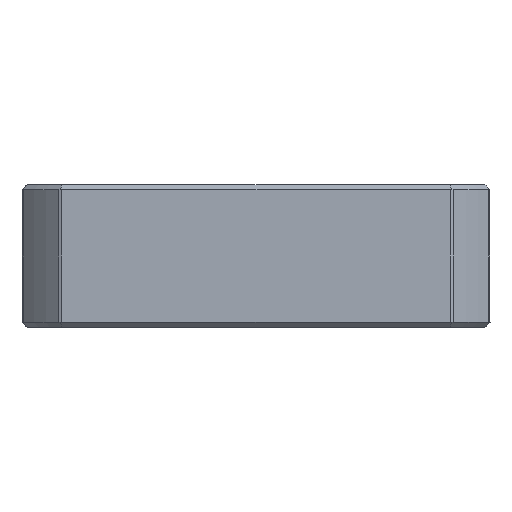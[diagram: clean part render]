
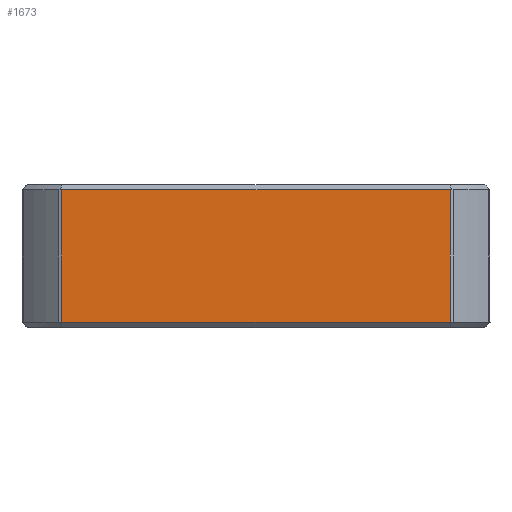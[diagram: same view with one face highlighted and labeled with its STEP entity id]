
A CAD part, left-side view. The second image highlights one B-rep face of the part: STEP entity #1673.
In plain terms, the highlighted planar face has unit normal (-1, 0, 0).
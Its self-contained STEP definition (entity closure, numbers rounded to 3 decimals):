
#1453 = VERTEX_POINT ( 'NONE', #6279 ) ;
#1498 = EDGE_CURVE ( 'NONE', #1515, #1499, #6350, .T. ) ;
#1499 = VERTEX_POINT ( 'NONE', #6342 ) ;
#1506 = EDGE_CURVE ( 'NONE', #1499, #1507, #6388, .T. ) ;
#1507 = VERTEX_POINT ( 'NONE', #6384 ) ;
#1514 = EDGE_CURVE ( 'NONE', #1453, #1515, #6378, .T. ) ;
#1515 = VERTEX_POINT ( 'NONE', #6368 ) ;
#1673 = ADVANCED_FACE ( 'NONE', ( #6638 ), #6637, .F. ) ;
#1674 = EDGE_LOOP ( 'NONE', ( #1675, #1676, #1678, #1732 ) ) ;
#1675 = ORIENTED_EDGE ( 'NONE', *, *, #1514, .F. ) ;
#1676 = ORIENTED_EDGE ( 'NONE', *, *, #1677, .T. ) ;
#1677 = EDGE_CURVE ( 'NONE', #1453, #1507, #6632, .T. ) ;
#1678 = ORIENTED_EDGE ( 'NONE', *, *, #1506, .F. ) ;
#1732 = ORIENTED_EDGE ( 'NONE', *, *, #1498, .F. ) ;
#6279 = CARTESIAN_POINT ( 'NONE',  ( -23., 19.079, 0.5 ) ) ;
#6342 = CARTESIAN_POINT ( 'NONE',  ( -23., -19.079, 13.5 ) ) ;
#6343 = DIRECTION ( 'NONE',  ( 0., -1., 0. ) ) ;
#6344 = VECTOR ( 'NONE', #6343, 1000. ) ;
#6345 = CARTESIAN_POINT ( 'NONE',  ( -23., 0., 13.5 ) ) ;
#6350 = LINE ( 'NONE', #6345, #6344 ) ;
#6368 = CARTESIAN_POINT ( 'NONE',  ( -23., 19.079, 13.5 ) ) ;
#6369 = DIRECTION ( 'NONE',  ( 0., 0., 1. ) ) ;
#6370 = VECTOR ( 'NONE', #6369, 1000. ) ;
#6371 = CARTESIAN_POINT ( 'NONE',  ( -23., 19.079, 7. ) ) ;
#6378 = LINE ( 'NONE', #6371, #6370 ) ;
#6384 = CARTESIAN_POINT ( 'NONE',  ( -23., -19.079, 0.5 ) ) ;
#6385 = DIRECTION ( 'NONE',  ( 0., 0., -1. ) ) ;
#6386 = VECTOR ( 'NONE', #6385, 1000. ) ;
#6387 = CARTESIAN_POINT ( 'NONE',  ( -23., -19.079, 7. ) ) ;
#6388 = LINE ( 'NONE', #6387, #6386 ) ;
#6629 = DIRECTION ( 'NONE',  ( 0., -1., 0. ) ) ;
#6630 = VECTOR ( 'NONE', #6629, 1000. ) ;
#6631 = CARTESIAN_POINT ( 'NONE',  ( -23., 0., 0.5 ) ) ;
#6632 = LINE ( 'NONE', #6631, #6630 ) ;
#6633 = DIRECTION ( 'NONE',  ( 0., 1., 0. ) ) ;
#6634 = DIRECTION ( 'NONE',  ( 1., 0., 0. ) ) ;
#6635 = CARTESIAN_POINT ( 'NONE',  ( -23., -19.842, 0.24 ) ) ;
#6636 = AXIS2_PLACEMENT_3D ( 'NONE', #6635, #6634, #6633 ) ;
#6637 = PLANE ( 'NONE',  #6636 ) ;
#6638 = FACE_OUTER_BOUND ( 'NONE', #1674, .T. ) ;
